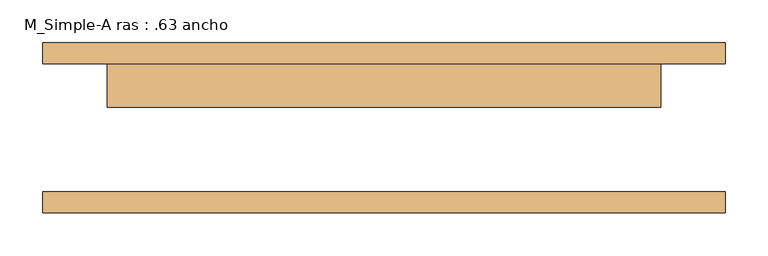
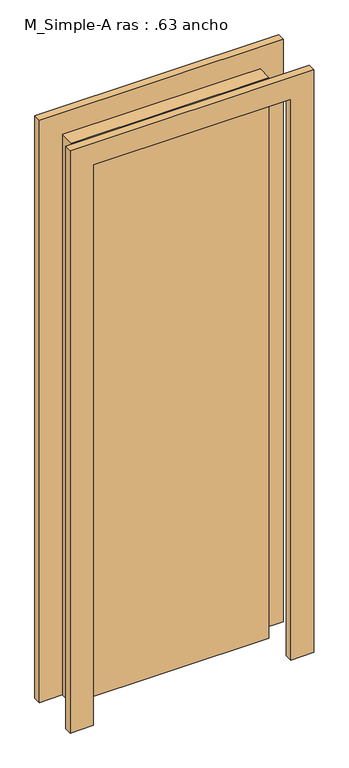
"""IFC4 building model written with IfcOpenShell, lengths in millimetres: door geometry, M_Simple-A ras : .63 ancho."""

from ifc_helpers import new_model, si_unit, frame, origin, origin_with_axes, place, context, project, spatial, polyline, outline, extrude, source, transform, mapped, element, save


def m_simple_a_ras_63_ancho_2eab0376(model_context):
    return source(origin(), model_context, "Body", "SweptSolid", [
        extrude(outline(polyline([(2026.0, -401.0), (0.0, -401.0), (0.0, -325.0), (1950.0, -325.0), (1950.0, 325.0), (0.0, 325.0), (0.0, 401.0), (2026.0, 401.0), (2026.0, -401.0)])), frame((0.0, 75.0, 0.0), z_axis=(0.0, 1.0, 0.0), x_axis=(0.0, 0.0, 1.0)), (0.0, 0.0, 1.0), 25.0),
        extrude(outline(polyline([(2026.0, 401.0), (2026.0, -401.0), (0.0, -401.0), (0.0, -325.0), (1950.0, -325.0), (1950.0, 325.0), (0.0, 325.0), (0.0, 401.0), (2026.0, 401.0)])), frame((0.0, -100.0, 0.0), z_axis=(0.0, 1.0, 0.0), x_axis=(0.0, 0.0, 1.0)), (0.0, 0.0, 1.0), 25.0),
        extrude(outline(polyline([(325.0, 24.0), (-325.0, 24.0), (-325.0, 75.0), (325.0, 75.0), (325.0, 24.0)])), origin_with_axes(), (0.0, 0.0, 1.0), 1950.0),
    ])


if __name__ == "__main__":
    model = new_model("IFC4")
    model_context = context("Model", 3, world=origin())
    ifc_project = project(units=[si_unit("LENGTHUNIT", "METRE", prefix="MILLI")], contexts=[model_context])
    site = spatial("IfcSite", under=ifc_project)
    building = spatial("IfcBuilding", under=site)
    placement = place(None, origin())
    m_simple_a_ras_63_ancho_shape = m_simple_a_ras_63_ancho_2eab0376(model_context)
    element("IfcDoor", 1, ObjectType="M_Simple-A ras : .63 ancho", at=placement, inside=building, context=model_context, shape_type="MappedRepresentation", body=[
        mapped(m_simple_a_ras_63_ancho_shape, transform((0.0, 0.0, 0.0), x_axis=(1.0, 0.0, 0.0), y_axis=(0.0, 1.0, 0.0), z_axis=(0.0, 0.0, 1.0))),
    ])
    save(model, "model.ifc")
